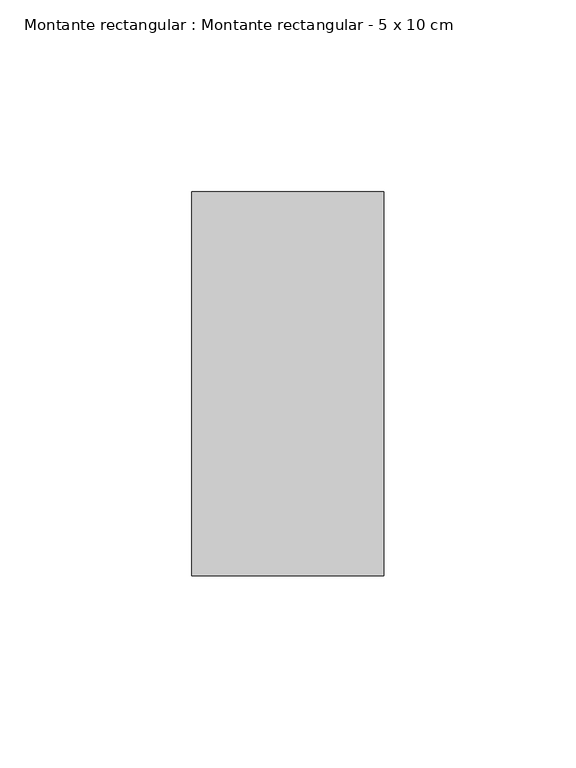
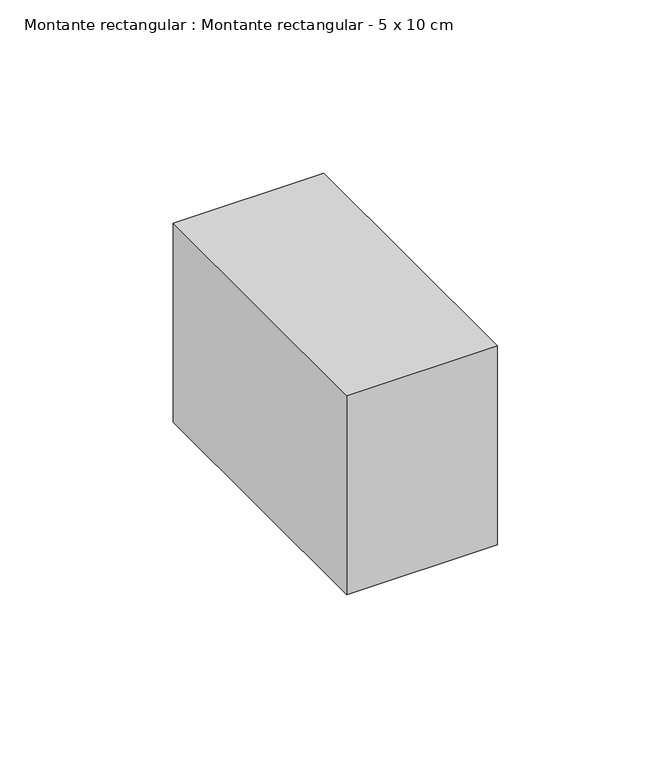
"""IFC4 building model written with IfcOpenShell, lengths in millimetres: member geometry, Montante rectangular : Montante rectangular - 5 x 10 cm."""

import ifcopenshell
import ifcopenshell.guid

model = None  # the IFC model being written
_history = None  # IfcOwnerHistory: only IFC2X3 demands one
_inside = {}  # id of a spatial element -> (the spatial element, [elements in it])
_under = {}  # id of a project, library or spatial element -> (it, [spatial elements below it])
_declared = {}  # id of a project -> (the project, [libraries it declares])
_typed = {}  # id of a type object -> (the type object, [elements of that type])
_made_of = {}  # id of a material, layer set ... -> (it, [elements and type objects made of it])


def new_model(schema):
    """Start an empty IFC model of exactly this schema.

    Asked for "IFC4X3", IfcOpenShell would pick the latest addendum, in which some entities
    have other attributes; the version numbers below select the first issue.
    IFC2X3 requires an IfcOwnerHistory on every rooted entity: one is made here for all.
    """
    global model, _history
    if schema == "IFC4X3":
        model = ifcopenshell.file(schema_version=(4, 3, 0, 0))
    else:
        model = ifcopenshell.file(schema=schema)
    _inside.clear()
    _under.clear()
    _declared.clear()
    _typed.clear()
    _made_of.clear()
    _history = None
    if model.schema == "IFC2X3":
        org = make("IfcOrganization", Name="unknown")
        user = make(
            "IfcPersonAndOrganization",
            ThePerson=make("IfcPerson", FamilyName="unknown"),
            TheOrganization=org,
        )
        app = make(
            "IfcApplication",
            ApplicationDeveloper=org,
            Version="unknown",
            ApplicationFullName="unknown",
            ApplicationIdentifier="unknown",
        )
        _history = make(
            "IfcOwnerHistory",
            OwningUser=user,
            OwningApplication=app,
            ChangeAction="ADDED",
            CreationDate=0,
        )
    return model


def make(cls, **values):
    """One entity of the class cls with the attributes given. An attribute that is None is left unset."""
    return model.create_entity(
        cls, **{name: value for name, value in values.items() if value is not None}
    )


def rooted(cls, **values):
    """An entity with a GlobalId (a new one), such as an element, a storey or a relation."""
    return make(cls, GlobalId=ifcopenshell.guid.new(), OwnerHistory=_history, **values)


def si_unit(unit_type, name, prefix=None):
    """IfcSIUnit, for example si_unit("LENGTHUNIT", "METRE", prefix="MILLI")."""
    return make("IfcSIUnit", UnitType=unit_type, Prefix=prefix, Name=name)


def assignment(units):
    """IfcUnitAssignment: the units of a project."""
    return None if units is None else make("IfcUnitAssignment", Units=units)


def point(xyz):
    """IfcCartesianPoint."""
    return None if xyz is None else make("IfcCartesianPoint", Coordinates=xyz)


def direction(xyz):
    """IfcDirection."""
    return None if xyz is None else make("IfcDirection", DirectionRatios=xyz)


def frame(location, z_axis=None, x_axis=None):
    """IfcAxis2Placement3D, a coordinate frame: its origin and axes. An axis left out is left unset."""
    return make(
        "IfcAxis2Placement3D",
        Location=point(location),
        Axis=direction(z_axis),
        RefDirection=direction(x_axis),
    )


def origin():
    """The frame at (0, 0, 0) with its axes left unset."""
    return frame((0.0, 0.0, 0.0))


def place(relative_to, where):
    """IfcLocalPlacement: puts the frame where relative to a parent placement (None: the world)."""
    return make(
        "IfcLocalPlacement", PlacementRelTo=relative_to, RelativePlacement=where
    )


def context(
    kind, dimensions, precision=None, world=None, true_north=None, identifier=None
):
    """IfcGeometricRepresentationContext, for example the 3D "Model" context."""
    return make(
        "IfcGeometricRepresentationContext",
        ContextIdentifier=identifier,
        ContextType=kind,
        CoordinateSpaceDimension=dimensions,
        Precision=precision,
        WorldCoordinateSystem=world,
        TrueNorth=true_north,
    )


def project(units=None, contexts=None):
    """IfcProject with its units and contexts."""
    return rooted(
        "IfcProject",
        Name="project",
        RepresentationContexts=contexts,
        UnitsInContext=assignment(units),
    )


def spatial(cls, under=None, at=None, **own):
    """A site, building, storey or space (cls), placed at a placement, below another one or the project."""
    s = rooted(cls, ObjectPlacement=at, **own)
    if under is not None:
        _under.setdefault(under.id(), (under, []))[1].append(s)
    return s


def polyline(points):
    """IfcPolyline through the points."""
    return make("IfcPolyline", Points=[point(p) for p in points])


def outline(outer, holes=None, kind="AREA"):
    """IfcArbitraryClosedProfileDef: a profile drawn as a closed curve; with holes, ...WithVoids."""
    if holes is None:
        return make("IfcArbitraryClosedProfileDef", ProfileType=kind, OuterCurve=outer)
    return make(
        "IfcArbitraryProfileDefWithVoids",
        ProfileType=kind,
        OuterCurve=outer,
        InnerCurves=holes,
    )


def extrude(swept, where, along, depth):
    """IfcExtrudedAreaSolid: the profile swept, set in the frame where, extruded along a direction by depth."""
    return make(
        "IfcExtrudedAreaSolid",
        SweptArea=swept,
        Position=where,
        ExtrudedDirection=direction(along),
        Depth=depth,
    )


def shape(context_of_items, identifier, shape_type, items):
    """IfcShapeRepresentation: the items that make up one representation, for example the "Body"."""
    return make(
        "IfcShapeRepresentation",
        ContextOfItems=context_of_items,
        RepresentationIdentifier=identifier,
        RepresentationType=shape_type,
        Items=items,
    )


def source(mapping_origin, context_of_items, identifier, shape_type, items):
    """IfcRepresentationMap: a shape defined once, which mapped items show again and again."""
    return make(
        "IfcRepresentationMap",
        MappingOrigin=mapping_origin,
        MappedRepresentation=shape(context_of_items, identifier, shape_type, items),
    )


def transform(
    local_origin,
    x_axis=None,
    y_axis=None,
    z_axis=None,
    scale=None,
    scale2=None,
    scale3=None,
    uniform=True,
):
    """IfcCartesianTransformationOperator3D, or its non-uniform kind. x_axis, y_axis, z_axis: its Axis1, 2, 3."""
    if uniform:
        return make(
            "IfcCartesianTransformationOperator3D",
            Axis1=direction(x_axis),
            Axis2=direction(y_axis),
            LocalOrigin=point(local_origin),
            Scale=scale,
            Axis3=direction(z_axis),
        )
    return make(
        "IfcCartesianTransformationOperator3DnonUniform",
        Axis1=direction(x_axis),
        Axis2=direction(y_axis),
        LocalOrigin=point(local_origin),
        Scale=scale,
        Axis3=direction(z_axis),
        Scale2=scale2,
        Scale3=scale3,
    )


def mapped(mapping_source, mapping_target):
    """IfcMappedItem: shows the shape of a source again, moved by a transform."""
    return make(
        "IfcMappedItem", MappingSource=mapping_source, MappingTarget=mapping_target
    )


def made_of(thing, what):
    """Note that an element or type object is made of a material, layer set ...; save() writes the relation."""
    if what is not None:
        _made_of.setdefault(what.id(), (what, []))[1].append(thing)
    return thing


def element(
    cls,
    number,
    at=None,
    inside=None,
    cuts=None,
    type_object=None,
    material=None,
    context=None,
    identifier="Body",
    shape_type=None,
    held_by="IfcProductDefinitionShape",
    body=None,
    shapes=None,
    **own,
):
    """One element of the class cls, such as IfcWall. Its Tag is "e" and its number.

    at: its placement. inside: the storey or other place that contains it. cuts: it is an
    opening in that element (IfcRelVoidsElement). A single representation is given by context,
    identifier, shape_type and body (its items); several are given by shapes. held_by: the class
    of the entity that holds the representations. save() writes the other relations.
    """
    e = rooted(cls, Tag="e%d" % number, ObjectPlacement=at, **own)
    if body is not None:
        shapes = [shape(context, identifier, shape_type, body)]
    if shapes is not None:
        e.Representation = make(held_by, Representations=shapes)
    if inside is not None:
        _inside.setdefault(inside.id(), (inside, []))[1].append(e)
    if cuts is not None:
        rooted(
            "IfcRelVoidsElement", RelatingBuildingElement=cuts, RelatedOpeningElement=e
        )
    if type_object is not None:
        _typed.setdefault(type_object.id(), (type_object, []))[1].append(e)
    return made_of(e, material)


def aggregate(whole, parts):
    """IfcRelAggregates: a whole, such as a stair, and the parts it consists of."""
    return rooted("IfcRelAggregates", RelatingObject=whole, RelatedObjects=parts)


def save(model, path):
    """Write the relations noted so far, then the file.

    IfcRelAggregates (storeys below a building ...), IfcRelContainedInSpatialStructure (elements
    in a storey), IfcRelDefinesByType, IfcRelAssociatesMaterial and IfcRelDeclares: one each for
    every whole, place, type object, material and project.
    """
    for whole, parts in _under.values():
        aggregate(whole, parts)
    for where, things in _inside.values():
        rooted(
            "IfcRelContainedInSpatialStructure",
            RelatedElements=things,
            RelatingStructure=where,
        )
    for kind, things in _typed.values():
        rooted("IfcRelDefinesByType", RelatedObjects=things, RelatingType=kind)
    for what, things in _made_of.values():
        rooted("IfcRelAssociatesMaterial", RelatedObjects=things, RelatingMaterial=what)
    for by, libraries in _declared.values():
        rooted("IfcRelDeclares", RelatingContext=by, RelatedDefinitions=libraries)
    model.write(path)


def montante_rectangular_montante_rectangular_5_x_10_cm_70a6678a(model_context):
    return source(origin(), model_context, "Body", "SweptSolid", [
        extrude(outline(polyline([(25.0, 50.0), (25.0, -50.0), (-25.0, -50.0), (-25.0, 50.0), (25.0, 50.0)])), frame((0.0, 0.0, -70.0), z_axis=(0.0, 0.0, 1.0), x_axis=(1.0, 0.0, 0.0)), (0.0, 0.0, 1.0), 70.0),
    ])


if __name__ == "__main__":
    model = new_model("IFC4")
    model_context = context("Model", 3, world=origin())
    ifc_project = project(units=[si_unit("LENGTHUNIT", "METRE", prefix="MILLI")], contexts=[model_context])
    site = spatial("IfcSite", under=ifc_project)
    building = spatial("IfcBuilding", under=site)
    placement = place(None, origin())
    montante_rectangular_montante_rectangular_5_x_10_cm_shape = montante_rectangular_montante_rectangular_5_x_10_cm_70a6678a(model_context)
    element("IfcMember", 1, ObjectType="Montante rectangular : Montante rectangular - 5 x 10 cm", at=placement, inside=building, context=model_context, shape_type="MappedRepresentation", body=[
        mapped(montante_rectangular_montante_rectangular_5_x_10_cm_shape, transform((0.0, 0.0, 0.0), x_axis=(1.0, 0.0, 0.0), y_axis=(0.0, 1.0, 0.0), z_axis=(0.0, 0.0, 1.0))),
    ])
    save(model, "model.ifc")
